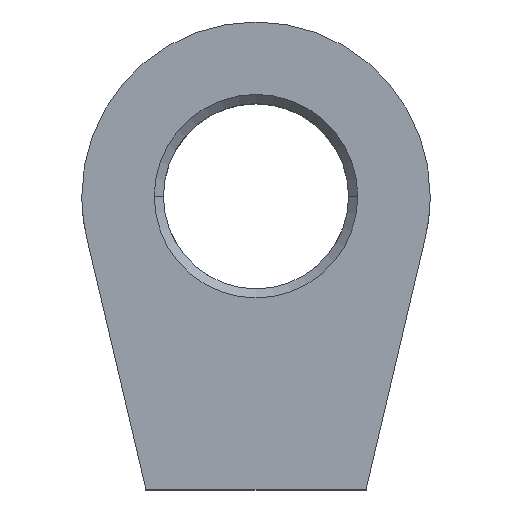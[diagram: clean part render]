
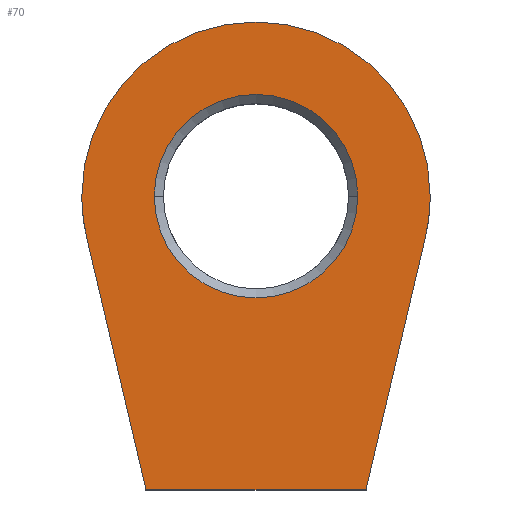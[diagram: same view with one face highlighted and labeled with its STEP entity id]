
A CAD part, top view. The second image highlights one B-rep face of the part: STEP entity #70.
In plain terms, the highlighted planar face has unit normal (0, 0, 1).
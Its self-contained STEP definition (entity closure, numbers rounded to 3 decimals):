
#10 = CARTESIAN_POINT ( 'NONE',  ( 0., 16., 6. ) ) ;
#33 = DIRECTION ( 'NONE',  ( 1., 0., 0. ) ) ;
#34 = VECTOR ( 'NONE', #507, 1000. ) ;
#38 = DIRECTION ( 'NONE',  ( 1., 0., 0. ) ) ;
#50 = EDGE_CURVE ( 'NONE', #612, #134, #173, .T. ) ;
#52 = VECTOR ( 'NONE', #33, 1000. ) ;
#61 = CARTESIAN_POINT ( 'NONE',  ( 6., 0., 6. ) ) ;
#64 = LINE ( 'NONE', #61, #34 ) ;
#66 = CIRCLE ( 'NONE', #461, 5.55 ) ;
#67 = CARTESIAN_POINT ( 'NONE',  ( -5.55, 16., 6. ) ) ;
#69 = EDGE_CURVE ( 'NONE', #221, #290, #646, .T. ) ;
#70 = ADVANCED_FACE ( 'NONE', ( #268, #469 ), #410, .T. ) ;
#77 = EDGE_CURVE ( 'NONE', #280, #580, #66, .T. ) ;
#88 = CARTESIAN_POINT ( 'NONE',  ( 0., 16., 6. ) ) ;
#92 = CARTESIAN_POINT ( 'NONE',  ( 0., 16., 6. ) ) ;
#113 = DIRECTION ( 'NONE',  ( 0., 0., 1. ) ) ;
#130 = CARTESIAN_POINT ( 'NONE',  ( -6., 0., 6. ) ) ;
#134 = VERTEX_POINT ( 'NONE', #167 ) ;
#137 = LINE ( 'NONE', #186, #52 ) ;
#142 = AXIS2_PLACEMENT_3D ( 'NONE', #92, #588, #304 ) ;
#157 = CARTESIAN_POINT ( 'NONE',  ( 0., 16., 6. ) ) ;
#160 = CARTESIAN_POINT ( 'NONE',  ( 9.248, 13.827, 6. ) ) ;
#167 = CARTESIAN_POINT ( 'NONE',  ( 9.5, 16., 6. ) ) ;
#171 = CARTESIAN_POINT ( 'NONE',  ( 0., 16., 6. ) ) ;
#173 = CIRCLE ( 'NONE', #142, 9.5 ) ;
#186 = CARTESIAN_POINT ( 'NONE',  ( 6., 0., 6. ) ) ;
#200 = CIRCLE ( 'NONE', #355, 9.5 ) ;
#221 = VERTEX_POINT ( 'NONE', #340 ) ;
#249 = DIRECTION ( 'NONE',  ( 1., 0., 0. ) ) ;
#250 = ORIENTED_EDGE ( 'NONE', *, *, #573, .T. ) ;
#268 = FACE_BOUND ( 'NONE', #432, .T. ) ;
#280 = VERTEX_POINT ( 'NONE', #527 ) ;
#281 = DIRECTION ( 'NONE',  ( 0.229, -0.973, 0. ) ) ;
#290 = VERTEX_POINT ( 'NONE', #130 ) ;
#294 = CIRCLE ( 'NONE', #411, 5.55 ) ;
#304 = DIRECTION ( 'NONE',  ( 1., 0., 0. ) ) ;
#307 = EDGE_CURVE ( 'NONE', #580, #280, #294, .T. ) ;
#308 = CARTESIAN_POINT ( 'NONE',  ( 0., 16., 6. ) ) ;
#320 = CARTESIAN_POINT ( 'NONE',  ( -9.5, 16., 6. ) ) ;
#337 = EDGE_CURVE ( 'NONE', #290, #430, #137, .T. ) ;
#340 = CARTESIAN_POINT ( 'NONE',  ( -9.248, 13.827, 6. ) ) ;
#345 = DIRECTION ( 'NONE',  ( 0., 0., -1. ) ) ;
#355 = AXIS2_PLACEMENT_3D ( 'NONE', #157, #497, #454 ) ;
#370 = DIRECTION ( 'NONE',  ( 1., 0., 0. ) ) ;
#375 = ORIENTED_EDGE ( 'NONE', *, *, #337, .T. ) ;
#377 = VECTOR ( 'NONE', #281, 1000. ) ;
#410 = PLANE ( 'NONE',  #525 ) ;
#411 = AXIS2_PLACEMENT_3D ( 'NONE', #88, #345, #38 ) ;
#421 = EDGE_LOOP ( 'NONE', ( #523, #375, #626, #641, #422, #250 ) ) ;
#422 = ORIENTED_EDGE ( 'NONE', *, *, #490, .T. ) ;
#430 = VERTEX_POINT ( 'NONE', #535 ) ;
#432 = EDGE_LOOP ( 'NONE', ( #611, #567 ) ) ;
#454 = DIRECTION ( 'NONE',  ( 1., 0., 0. ) ) ;
#461 = AXIS2_PLACEMENT_3D ( 'NONE', #171, #560, #370 ) ;
#469 = FACE_OUTER_BOUND ( 'NONE', #421, .T. ) ;
#490 = EDGE_CURVE ( 'NONE', #134, #619, #491, .T. ) ;
#491 = CIRCLE ( 'NONE', #581, 9.5 ) ;
#497 = DIRECTION ( 'NONE',  ( 0., 0., 1. ) ) ;
#507 = DIRECTION ( 'NONE',  ( 0.229, 0.973, 0. ) ) ;
#523 = ORIENTED_EDGE ( 'NONE', *, *, #69, .T. ) ;
#525 = AXIS2_PLACEMENT_3D ( 'NONE', #10, #113, #558 ) ;
#527 = CARTESIAN_POINT ( 'NONE',  ( 5.55, 16., 6. ) ) ;
#535 = CARTESIAN_POINT ( 'NONE',  ( 6., 0., 6. ) ) ;
#558 = DIRECTION ( 'NONE',  ( 1., 0., 0. ) ) ;
#560 = DIRECTION ( 'NONE',  ( 0., 0., -1. ) ) ;
#567 = ORIENTED_EDGE ( 'NONE', *, *, #307, .T. ) ;
#573 = EDGE_CURVE ( 'NONE', #619, #221, #200, .T. ) ;
#580 = VERTEX_POINT ( 'NONE', #67 ) ;
#581 = AXIS2_PLACEMENT_3D ( 'NONE', #308, #583, #249 ) ;
#583 = DIRECTION ( 'NONE',  ( 0., 0., 1. ) ) ;
#588 = DIRECTION ( 'NONE',  ( 0., 0., 1. ) ) ;
#608 = CARTESIAN_POINT ( 'NONE',  ( -6., 0., 6. ) ) ;
#611 = ORIENTED_EDGE ( 'NONE', *, *, #77, .T. ) ;
#612 = VERTEX_POINT ( 'NONE', #160 ) ;
#619 = VERTEX_POINT ( 'NONE', #320 ) ;
#621 = EDGE_CURVE ( 'NONE', #430, #612, #64, .T. ) ;
#626 = ORIENTED_EDGE ( 'NONE', *, *, #621, .T. ) ;
#641 = ORIENTED_EDGE ( 'NONE', *, *, #50, .T. ) ;
#646 = LINE ( 'NONE', #608, #377 ) ;
